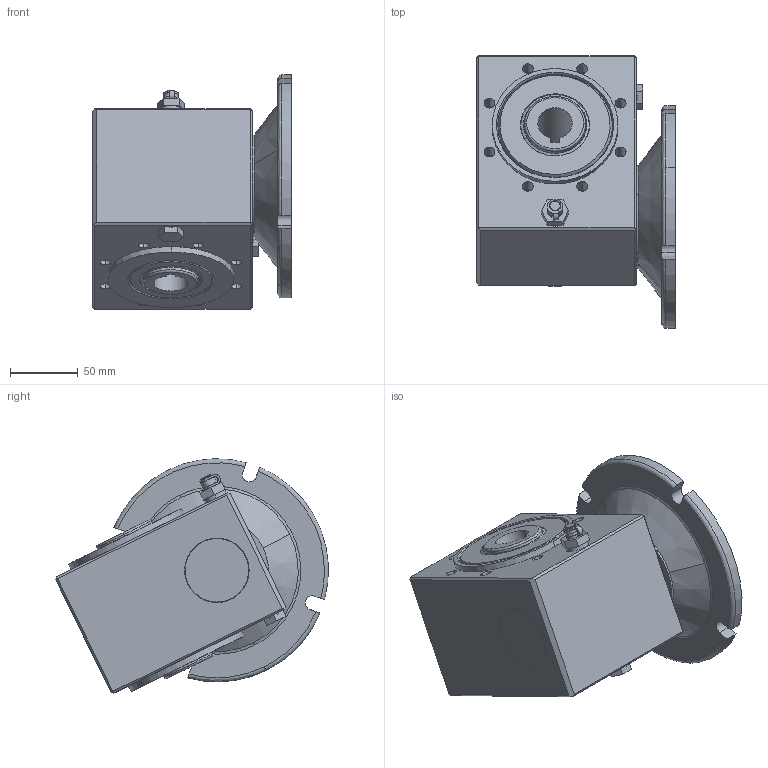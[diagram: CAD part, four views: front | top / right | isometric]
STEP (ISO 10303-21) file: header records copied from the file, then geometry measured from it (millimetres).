
FILE_DESCRIPTION (( 'STEP AP203' ), '1' );
FILE_NAME ('JRESND50-56C.STEP', '2021-02-25T17:36:28', ( '' ), ( '' ), 'SwSTEP 2.0', 'SolidWorks 2017', '' );
FILE_SCHEMA (( 'CONFIG_CONTROL_DESIGN' ));
Length unit declared in the file: millimetre
Products named in the file (13): M12籵ァん极极; 47X8; 簽极; 40X62X10; 45X85X10; M10放油螺塞体; 象皮圈; 30X47X8; JRSTD50-7.5-03_Default; JRESSD50-01; JRESN50-7.5恘謫; JRESND50-56C输入法兰; JRESND50-56C
Assembly tree (13 placements, depth 2):
  JRESND50-56C
    JRESSD50-01
    JRESND50-56C输入法兰
    45X85X10
    47X8
    30X47X8
    JRSTD50-7.5-03_Default
    40X62X10
    M10放油螺塞体  x2
    M12籵ァん极极
    簽极
    象皮圈
    JRESN50-7.5恘謫
Bounding box: 147 x 201.61 x 173.39 mm (x, y, z)
Volume: 1492177.4 mm3; surface area: 253286.2 mm2
Topology: 13 solids, 13 shells, 686 faces, 1560 edges, 945 vertices
Faces by surface type: cylinder 267, plane 200, cone 139, bspline 76, torus 4
Entity records: 22518 total; most frequent: CARTESIAN_POINT 6208, DIRECTION 3332, ORIENTED_EDGE 2928, EDGE_CURVE 1464, AXIS2_PLACEMENT_3D 1340, VERTEX_POINT 921, EDGE_LOOP 793, CIRCLE 731
